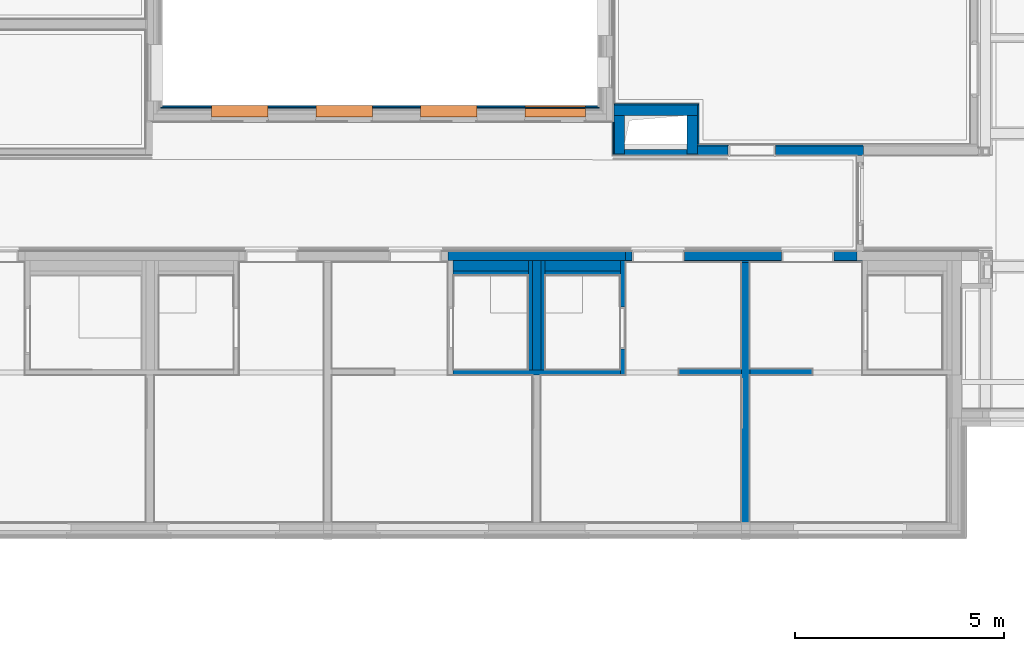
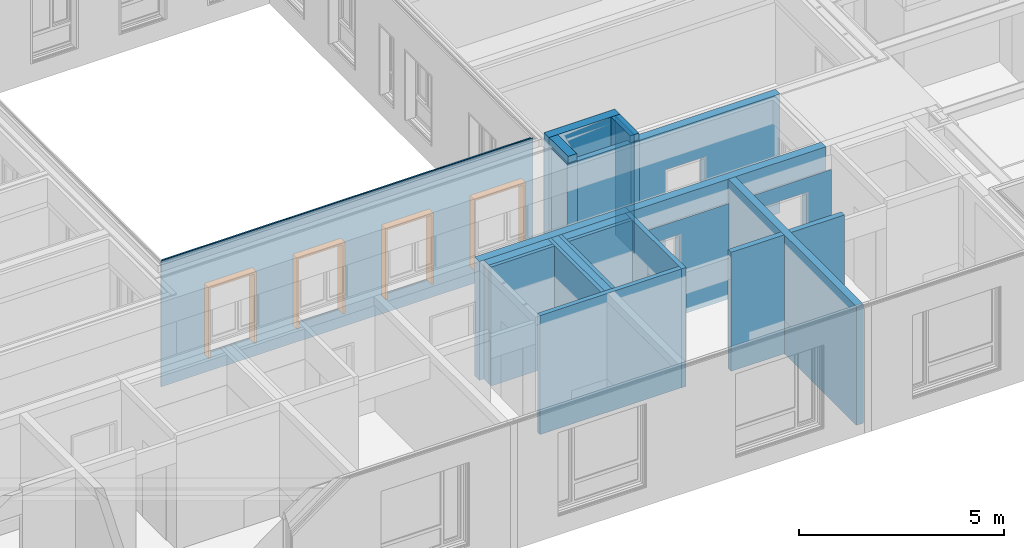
# One storey, part 13 of 222: 28 walls, 4 proxies, 15 openings.
"""IFC4 building model written with IfcOpenShell, lengths in metres."""

from ifc_helpers import new_model, entity, si_unit, converted_unit, derived_unit, frame, frame_2d, origin, origin_with_axes, place, context, subcontext, project, spatial, polyline, rectangle, outline, extrude, clip, bounded_halfspace, faceted_brep, material, element, fill, save


model = new_model("IFC4")

# Units and contexts
model_context = context("Model", 3, precision=1e-05, world=origin())
body_context = subcontext(model_context, "Body", "Model", "MODEL_VIEW")
ifc_project = project(units=[si_unit("LENGTHUNIT", "METRE"), si_unit("AREAUNIT", "SQUARE_METRE"), si_unit("VOLUMEUNIT", "CUBIC_METRE"), si_unit("MASSUNIT", "GRAM", prefix="KILO"), converted_unit("PLANEANGLEUNIT", "DEGREE", entity("IfcPlaneAngleMeasure", 0.0174532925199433), si_unit("PLANEANGLEUNIT", "RADIAN"), dimensions=[0, 0, 0, 0, 0, 0, 0]), derived_unit("THERMALTRANSMITTANCEUNIT", [(si_unit("POWERUNIT", "WATT"), 1), (si_unit("THERMODYNAMICTEMPERATUREUNIT", "KELVIN"), -1), (si_unit("LENGTHUNIT", "METRE"), -2)]), derived_unit("VOLUMETRICFLOWRATEUNIT", [(si_unit("LENGTHUNIT", "METRE"), 3), (converted_unit("TIMEUNIT", "hour", entity("IfcTimeMeasure", 3600.0), si_unit("TIMEUNIT", "SECOND"), dimensions=[0, 0, 1, 0, 0, 0, 0]), -1), (si_unit("LENGTHUNIT", "METRE"), -1)])], contexts=[model_context])

# Site, building, storey
site_placement = place(None, origin())
site = spatial("IfcSite", under=ifc_project, at=site_placement, Name="Psychiatrie Neubau Wunstorf", CompositionType="ELEMENT")
building_placement = place(site_placement, origin())
building = spatial("IfcBuilding", under=site, at=building_placement, Name="Neubau H2 Stationsgebäude", CompositionType="ELEMENT")
storey_placement = place(building_placement, frame((0.0, 0.0, 3.6)))
storey = spatial("IfcBuildingStorey", under=building, at=storey_placement, Name="H2 Ebene +1", CompositionType="ELEMENT", Elevation=3.6)

# Wall, openings
ifc_material_1 = material(Name="WA-TL")
wall_1_placement = place(storey_placement, frame((15.999, 7.75, 0.0)))
wall_1 = element("IfcWall", 1, at=wall_1_placement, inside=storey, material=ifc_material_1, context=body_context, shape_type="SweptSolid", body=[
    extrude(rectangle(XDim=10.502, YDim=0.024, at=frame_2d((5.25099999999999, 0.012), x_axis=(1.0, 0.0))), origin_with_axes(), (0.0, 0.0, 1.0), 3.75),
])
opening_1_placement = place(wall_1_placement, frame((10.1711686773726, 0.0239999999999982, 0.55), z_axis=(0.0, -1.0, 0.0), x_axis=(0.0, 0.0, 1.0)))
element("IfcOpeningElement", 2, at=opening_1_placement, cuts=wall_1, Name="Fensteröffnung", ObjectType="Opening", context=body_context, shape_type="SweptSolid", body=[
    extrude(outline(polyline([(2.115, 1.45), (2.115, 0.0), (0.0, 0.0), (0.0, 1.45), (2.115, 1.45)])), origin_with_axes(), (0.0, 0.0, 1.0), 0.024),
])
opening_2_placement = place(wall_1_placement, frame((7.57125366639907, 0.024, 0.55), z_axis=(0.0, -1.0, 0.0), x_axis=(0.0, 0.0, 1.0)))
element("IfcOpeningElement", 3, at=opening_2_placement, cuts=wall_1, Name="Fensteröffnung", ObjectType="Opening", context=body_context, shape_type="SweptSolid", body=[
    extrude(outline(polyline([(2.115, 1.35), (2.115, 0.0), (0.0, 0.0), (0.0, 1.35), (2.115, 1.35)])), origin_with_axes(), (0.0, 0.0, 1.0), 0.024),
])
opening_3_placement = place(wall_1_placement, frame((5.07125366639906, 0.0240000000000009, 0.55), z_axis=(0.0, -1.0, 0.0), x_axis=(0.0, 0.0, 1.0)))
element("IfcOpeningElement", 4, at=opening_3_placement, cuts=wall_1, Name="Fensteröffnung", ObjectType="Opening", context=body_context, shape_type="SweptSolid", body=[
    extrude(outline(polyline([(2.115, 1.35), (2.115, 0.0), (0.0, 0.0), (0.0, 1.35), (2.115, 1.35)])), origin_with_axes(), (0.0, 0.0, 1.0), 0.024),
])
opening_4_placement = place(wall_1_placement, frame((2.5712536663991, 0.0240000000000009, 0.55), z_axis=(0.0, -1.0, 0.0), x_axis=(0.0, 0.0, 1.0)))
element("IfcOpeningElement", 5, at=opening_4_placement, cuts=wall_1, Name="Fensteröffnung", ObjectType="Opening", context=body_context, shape_type="SweptSolid", body=[
    extrude(outline(polyline([(2.115, 1.35), (2.115, 0.0), (0.0, 0.0), (0.0, 1.35), (2.115, 1.35)])), origin_with_axes(), (0.0, 0.0, 1.0), 0.024),
])

# Wall, openings, proxies
ifc_material_2 = material(Name="WA-HS")
wall_2_placement = place(storey_placement, frame((16.041, 7.774, 0.0)))
wall_2 = element("IfcWall", 6, at=wall_2_placement, inside=storey, material=ifc_material_2, context=body_context, shape_type="SweptSolid", body=[
    extrude(rectangle(XDim=10.418, YDim=0.042, at=frame_2d((5.20899999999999, 0.021), x_axis=(1.0, 0.0))), origin_with_axes(), (0.0, 0.0, 1.0), 3.75),
])
opening_5_placement = place(wall_2_placement, frame((10.1291686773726, 0.0419999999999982, 0.55), z_axis=(0.0, -1.0, 0.0), x_axis=(0.0, 0.0, 1.0)))
opening_5 = element("IfcOpeningElement", 7, at=opening_5_placement, cuts=wall_2, Name="Fensteröffnung", ObjectType="Opening", context=body_context, shape_type="SweptSolid", body=[
    extrude(outline(polyline([(2.115, 1.45), (2.115, 0.0), (0.0, 0.0), (0.0, 1.45), (2.115, 1.45)])), origin_with_axes(), (0.0, 0.0, 1.0), 0.042),
])
opening_6_placement = place(wall_2_placement, frame((7.52925366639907, 0.042, 0.55), z_axis=(0.0, -1.0, 0.0), x_axis=(0.0, 0.0, 1.0)))
opening_6 = element("IfcOpeningElement", 8, at=opening_6_placement, cuts=wall_2, Name="Fensteröffnung", ObjectType="Opening", context=body_context, shape_type="SweptSolid", body=[
    extrude(outline(polyline([(2.115, 1.35), (2.115, 0.0), (0.0, 0.0), (0.0, 1.35), (2.115, 1.35)])), origin_with_axes(), (0.0, 0.0, 1.0), 0.042),
])
opening_7_placement = place(wall_2_placement, frame((5.02925366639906, 0.0420000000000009, 0.55), z_axis=(0.0, -1.0, 0.0), x_axis=(0.0, 0.0, 1.0)))
opening_7 = element("IfcOpeningElement", 9, at=opening_7_placement, cuts=wall_2, Name="Fensteröffnung", ObjectType="Opening", context=body_context, shape_type="SweptSolid", body=[
    extrude(outline(polyline([(2.115, 1.35), (2.115, 0.0), (0.0, 0.0), (0.0, 1.35), (2.115, 1.35)])), origin_with_axes(), (0.0, 0.0, 1.0), 0.042),
])
opening_8_placement = place(wall_2_placement, frame((2.5292536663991, 0.0420000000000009, 0.55), z_axis=(0.0, -1.0, 0.0), x_axis=(0.0, 0.0, 1.0)))
opening_8 = element("IfcOpeningElement", 10, at=opening_8_placement, cuts=wall_2, Name="Fensteröffnung", ObjectType="Opening", context=body_context, shape_type="SweptSolid", body=[
    extrude(outline(polyline([(2.115, 1.35), (2.115, 0.0), (0.0, 0.0), (0.0, 1.35), (2.115, 1.35)])), origin_with_axes(), (0.0, 0.0, 1.0), 0.042),
])
ifc_material_3 = material(Name="WA-HS")
proxy_1_placement = place(opening_5_placement, frame((0.0, 1.45, 0.275)))
proxy_1 = element("IfcBuildingElementProxy", 11, at=proxy_1_placement, inside=storey, material=ifc_material_3, context=body_context, shape_type="Brep", body=[
    faceted_brep([(0.0, -1.45, -0.275), (0.0, -1.45, 0.0), (2.115, -1.45, 0.0), (2.115, -1.45, -0.275), (0.0, -1.4, 0.0), (0.0, -1.4, -0.275), (2.065, -1.4, -0.275), (2.065, -1.4, 0.0), (2.115, 0.0, 0.0), (2.115, 0.0, -0.275), (0.0, 0.0, -0.275), (0.0, -0.0500000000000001, -0.275), (2.065, -0.05, -0.275), (2.065, -0.05, 0.0), (0.0, -0.0500000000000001, 0.0), (0.0, 0.0, 0.0)], [[[0, 1, 2, 3]], [[4, 5, 6, 7]], [[0, 5, 4, 1]], [[3, 2, 8, 9]], [[6, 5, 0, 3, 9, 10, 11, 12]], [[13, 14, 15, 8, 2, 1, 4, 7]], [[7, 6, 12, 13]], [[11, 14, 13, 12]], [[15, 10, 9, 8]], [[11, 10, 15, 14]]], orient=[[False], [False], [False], [False], [False], [False], [False], [False], [False], [False]]),
])
fill(opening_5, proxy_1)
ifc_material_4 = material(Name="WA-HS")
proxy_2_placement = place(opening_6_placement, frame((0.0, 1.35, 0.275)))
proxy_2 = element("IfcBuildingElementProxy", 12, at=proxy_2_placement, inside=storey, material=ifc_material_4, context=body_context, shape_type="Brep", body=[
    faceted_brep([(0.0, -1.35, -0.275), (0.0, -1.35, 0.0), (2.115, -1.35, 0.0), (2.115, -1.35, -0.275), (0.0, -1.3, 0.0), (0.0, -1.3, -0.275), (2.065, -1.3, -0.275), (2.065, -1.3, 0.0), (2.115, 0.0, 0.0), (2.115, 0.0, -0.275), (0.0, 0.0, -0.275), (0.0, -0.05, -0.275), (2.065, -0.05, -0.275), (2.065, -0.05, 0.0), (0.0, -0.05, 0.0), (0.0, 0.0, 0.0)], [[[0, 1, 2, 3]], [[4, 5, 6, 7]], [[0, 5, 4, 1]], [[3, 2, 8, 9]], [[6, 5, 0, 3, 9, 10, 11, 12]], [[13, 14, 15, 8, 2, 1, 4, 7]], [[7, 6, 12, 13]], [[11, 14, 13, 12]], [[15, 10, 9, 8]], [[11, 10, 15, 14]]], orient=[[False], [False], [False], [False], [False], [False], [False], [False], [False], [False]]),
])
fill(opening_6, proxy_2)
ifc_material_5 = material(Name="WA-HS")
proxy_3_placement = place(opening_7_placement, frame((0.0, 1.35, 0.275)))
proxy_3 = element("IfcBuildingElementProxy", 13, at=proxy_3_placement, inside=storey, material=ifc_material_5, context=body_context, shape_type="Brep", body=[
    faceted_brep([(0.0, -1.35, -0.275), (0.0, -1.35, 0.0), (2.115, -1.35, 0.0), (2.115, -1.35, -0.275), (0.0, -1.3, 0.0), (0.0, -1.3, -0.275), (2.065, -1.3, -0.275), (2.065, -1.3, 0.0), (2.115, 0.0, 0.0), (2.115, 0.0, -0.275), (0.0, 0.0, -0.275), (0.0, -0.05, -0.275), (2.065, -0.05, -0.275), (2.065, -0.05, 0.0), (0.0, -0.05, 0.0), (0.0, 0.0, 0.0)], [[[0, 1, 2, 3]], [[4, 5, 6, 7]], [[0, 5, 4, 1]], [[3, 2, 8, 9]], [[6, 5, 0, 3, 9, 10, 11, 12]], [[13, 14, 15, 8, 2, 1, 4, 7]], [[7, 6, 12, 13]], [[11, 14, 13, 12]], [[15, 10, 9, 8]], [[11, 10, 15, 14]]], orient=[[False], [False], [False], [False], [False], [False], [False], [False], [False], [False]]),
])
fill(opening_7, proxy_3)
ifc_material_6 = material(Name="WA-HS")
proxy_4_placement = place(opening_8_placement, frame((0.0, 1.35, 0.275)))
proxy_4 = element("IfcBuildingElementProxy", 14, at=proxy_4_placement, inside=storey, material=ifc_material_6, context=body_context, shape_type="Brep", body=[
    faceted_brep([(0.0, 0.0, 0.0), (0.0, 0.0, -0.275), (2.115, 0.0, -0.275), (2.115, 0.0, 0.0), (2.115, -1.35, -0.275), (2.115, -1.35, 0.0), (0.0, -0.05, -0.275), (0.0, -0.05, 0.0), (0.0, -1.35, 0.0), (0.0, -1.3, 0.0), (2.065, -1.3, 0.0), (2.065, -0.05, 0.0), (2.065, -0.05, -0.275), (2.065, -1.3, -0.275), (0.0, -1.3, -0.275), (0.0, -1.35, -0.275)], [[[0, 1, 2, 3]], [[2, 4, 5, 3]], [[6, 1, 0, 7]], [[7, 0, 3, 5, 8, 9, 10, 11]], [[1, 6, 12, 13, 14, 15, 4, 2]], [[6, 7, 11, 12]], [[15, 8, 5, 4]], [[15, 14, 9, 8]], [[9, 14, 13, 10]], [[10, 13, 12, 11]]], orient=[[False], [False], [False], [False], [False], [False], [False], [False], [False], [False]]),
])
fill(opening_8, proxy_4)

# Walls
ifc_material_7 = material(Name="WI-STB")
wall_3_placement = place(storey_placement, frame((27.1, 6.64199999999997, 0.0), z_axis=(0.0, 0.0, 1.0), x_axis=(0.0, 1.0, 0.0)))
element("IfcWall", 15, at=wall_3_placement, inside=storey, material=ifc_material_7, context=body_context, shape_type="Clipping", body=[
    clip(extrude(rectangle(XDim=0.932999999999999, YDim=0.25, at=frame_2d((0.4665, 0.125), x_axis=(1.0, 0.0))), origin_with_axes(), (0.0, 0.0, 1.0), 3.75), bounded_halfspace(frame((0.125005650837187, 0.125, 0.1), z_axis=(0.0, 0.0, 1.0), x_axis=(0.0, 1.0, 0.0)), True, origin_with_axes(), polyline([(0.250007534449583, 0.0), (0.250007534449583, 0.25), (3.76722479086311e-06, 0.25), (3.76722479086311e-06, 0.0), (0.250007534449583, 0.0)]))),
])
ifc_material_8 = material(Name="WI-LB")
wall_4_placement = place(storey_placement, frame((27.0, 1.48374963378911, 0.0), z_axis=(0.0, 0.0, 1.0), x_axis=(-1.0, 0.0, 0.0)))
element("IfcWall", 16, at=wall_4_placement, inside=storey, material=ifc_material_8, context=body_context, shape_type="SweptSolid", body=[
    extrude(rectangle(XDim=4.0, YDim=0.125, at=frame_2d((2.0, 0.0625), x_axis=(1.0, 0.0))), origin_with_axes(), (0.0, 0.0, 1.0), 3.55),
])

# Wall, opening
ifc_material_9 = material(Name="WI-LB")
wall_5_placement = place(storey_placement, frame((27.0, 4.09874963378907, 0.0), z_axis=(0.0, 0.0, 1.0), x_axis=(0.0, -1.0, 0.0)))
wall_5 = element("IfcWall", 17, at=wall_5_placement, inside=storey, material=ifc_material_9, context=body_context, shape_type="SweptSolid", body=[
    extrude(rectangle(XDim=2.73999999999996, YDim=0.125, at=frame_2d((1.36999999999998, 0.0625), x_axis=(1.0, 0.0))), origin_with_axes(), (0.0, 0.0, 1.0), 3.55),
])
opening_9_placement = place(wall_5_placement, frame((1.10499999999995, 0.0, 0.0), z_axis=(0.0, 1.0, 0.0), x_axis=(0.0, 0.0, 1.0)))
element("IfcOpeningElement", 18, at=opening_9_placement, cuts=wall_5, Name="Türöffnung", ObjectType="Opening", context=body_context, shape_type="SweptSolid", body=[
    extrude(outline(polyline([(2.41, 1.01), (2.41, 0.0), (0.0, 0.0), (0.0, 1.01), (2.41, 1.01)])), origin_with_axes(), (0.0, 0.0, 1.0), 0.125),
])

# Walls
ifc_material_10 = material(Name="WI-LB")
wall_6_placement = place(storey_placement, frame((26.8200003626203, 7.414, 0.0), z_axis=(0.0, 0.0, 1.0), x_axis=(0.0, -1.0, 0.0)))
element("IfcWall", 19, at=wall_6_placement, inside=storey, material=ifc_material_10, context=body_context, shape_type="SweptSolid", body=[
    extrude(rectangle(XDim=0.772000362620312, YDim=0.0299996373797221, at=frame_2d((0.386000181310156, 0.0149998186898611), x_axis=(1.0, 0.0))), origin_with_axes(), (0.0, 0.0, 1.0), 3.55),
])
ifc_material_11 = material(Name="WI-LB")
wall_7_placement = place(storey_placement, frame((28.88, 7.85499999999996, 0.0), z_axis=(0.0, 0.0, 1.0), x_axis=(-1.0, 0.0, 0.0)))
element("IfcWall", 20, at=wall_7_placement, inside=storey, material=ifc_material_11, context=body_context, shape_type="SweptSolid", body=[
    extrude(rectangle(XDim=2.01900000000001, YDim=0.0299996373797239, at=frame_2d((1.00950000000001, 0.014999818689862), x_axis=(1.0, 0.0))), origin_with_axes(), (0.0, 0.0, 1.0), 3.55),
])
ifc_material_12 = material(Name="WI-LB")
wall_8_placement = place(storey_placement, frame((28.88, 6.88399999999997, 0.0), z_axis=(0.0, 0.0, 1.0), x_axis=(0.0, 1.0, 0.0)))
element("IfcWall", 21, at=wall_8_placement, inside=storey, material=ifc_material_12, context=body_context, shape_type="SweptSolid", body=[
    extrude(rectangle(XDim=0.940999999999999, YDim=0.0299996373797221, at=frame_2d((0.4705, 0.0149998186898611), x_axis=(1.0, 0.0))), origin_with_axes(), (0.0, 0.0, 1.0), 3.55),
])
ifc_material_13 = material(Name="WI-STB")
wall_9_placement = place(storey_placement, frame((28.85, 6.64199999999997, 0.0), z_axis=(0.0, 0.0, 1.0), x_axis=(0.0, 1.0, 0.0)))
element("IfcWall", 22, at=wall_9_placement, inside=storey, material=ifc_material_13, context=body_context, shape_type="Clipping", body=[
    clip(extrude(rectangle(XDim=0.932999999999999, YDim=0.25, at=frame_2d((0.4665, 0.125), x_axis=(1.0, 0.0))), origin_with_axes(), (0.0, 0.0, 1.0), 3.75), bounded_halfspace(frame((0.125005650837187, 0.125, 0.1), z_axis=(0.0, 0.0, 1.0), x_axis=(0.0, 1.0, 0.0)), True, origin_with_axes(), polyline([(0.250007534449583, 0.0), (0.250007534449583, 0.25), (3.76722479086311e-06, 0.25), (3.76722479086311e-06, 0.0), (0.250007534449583, 0.0)]))),
])
ifc_material_14 = material(Name="WI-STB")
wall_10_placement = place(storey_placement, frame((28.85, 7.82499999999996, 0.0), z_axis=(0.0, 0.0, 1.0), x_axis=(-1.0, 0.0, 0.0)))
element("IfcWall", 23, at=wall_10_placement, inside=storey, material=ifc_material_14, context=body_context, shape_type="SweptSolid", body=[
    extrude(rectangle(XDim=2.0, YDim=0.25, at=frame_2d((1.0, 0.125), x_axis=(1.0, 0.0))), origin_with_axes(), (0.0, 0.0, 1.0), 3.75),
])
ifc_material_15 = material(Name="WI-LB")
wall_11_placement = place(storey_placement, frame((29.9, 4.09874963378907, 0.0), z_axis=(0.0, 0.0, 1.0), x_axis=(0.0, -1.0, 0.0)))
element("IfcWall", 24, at=wall_11_placement, inside=storey, material=ifc_material_15, context=body_context, shape_type="SweptSolid", body=[
    extrude(rectangle(XDim=6.26274963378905, YDim=0.2, at=frame_2d((3.13137481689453, 0.1), x_axis=(1.0, 0.0))), origin_with_axes(), (0.0, 0.0, 1.0), 3.55),
])

# Wall, opening
ifc_material_16 = material(Name="WI-HW 60")
wall_12_placement = place(storey_placement, frame((28.85, 6.61199999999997, 0.0), z_axis=(0.0, 0.0, 1.0), x_axis=(1.0, -2.2917845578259e-16, 0.0)))
wall_12 = element("IfcWall", 25, at=wall_12_placement, inside=storey, material=ifc_material_16, context=body_context, shape_type="SweptSolid", body=[
    extrude(rectangle(XDim=3.96849999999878, YDim=0.232, at=frame_2d((1.98424999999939, 0.116), x_axis=(1.0, 0.0))), origin_with_axes(), (0.0, 0.0, 1.0), 3.55),
])
opening_10_placement = place(wall_12_placement, frame((1.865, 0.232, 0.0), z_axis=(0.0, -1.0, 0.0), x_axis=(0.0, 0.0, 1.0)))
element("IfcOpeningElement", 26, at=opening_10_placement, cuts=wall_12, Name="Türöffnung", ObjectType="Opening", context=body_context, shape_type="SweptSolid", body=[
    extrude(outline(polyline([(2.41, 1.135), (2.41, 0.0), (0.0, 0.0), (0.0, 1.135), (2.41, 1.135)])), origin_with_axes(), (0.0, 0.0, 1.0), 0.232),
])

ifc_material_17 = material(Name="WI-LB")
wall_13_placement = place(storey_placement, frame((28.85, 6.84399999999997, 0.0), z_axis=(0.0, 0.0, 1.0), x_axis=(1.0, -2.2917845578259e-16, 0.0)))
wall_13 = element("IfcWall", 27, at=wall_13_placement, inside=storey, material=ifc_material_17, context=body_context, shape_type="SweptSolid", body=[
    extrude(rectangle(XDim=3.96849999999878, YDim=0.04, at=frame_2d((1.98424999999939, 0.02), x_axis=(1.0, 0.0))), origin_with_axes(), (0.0, 0.0, 1.0), 2.9),
])
opening_11_placement = place(wall_13_placement, frame((1.865, 0.0400000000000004, 0.0), z_axis=(0.0, -1.0, 0.0), x_axis=(0.0, 0.0, 1.0)))
element("IfcOpeningElement", 28, at=opening_11_placement, cuts=wall_13, Name="Türöffnung", ObjectType="Opening", context=body_context, shape_type="SweptSolid", body=[
    extrude(outline(polyline([(2.41, 1.135), (2.41, 0.0), (0.0, 0.0), (0.0, 1.135), (2.41, 1.135)])), origin_with_axes(), (0.0, 0.0, 1.0), 0.04),
])

# Walls
ifc_material_18 = material(Name="WI-LB")
wall_14_placement = place(storey_placement, frame((29.9, 1.50874963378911, 0.0), z_axis=(0.0, 0.0, 1.0), x_axis=(-1.0, 0.0, 0.0)))
element("IfcWall", 29, at=wall_14_placement, inside=storey, material=ifc_material_18, context=body_context, shape_type="SweptSolid", body=[
    extrude(rectangle(XDim=1.5, YDim=0.15, at=frame_2d((0.75, 0.075), x_axis=(1.0, 0.0))), origin_with_axes(), (0.0, 0.0, 1.0), 3.55),
])
ifc_material_19 = material(Name="WI-LB")
wall_15_placement = place(storey_placement, frame((31.6, 1.50874963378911, 0.0), z_axis=(0.0, 0.0, 1.0), x_axis=(-1.0, -4.24430860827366e-15, 0.0)))
element("IfcWall", 30, at=wall_15_placement, inside=storey, material=ifc_material_19, context=body_context, shape_type="SweptSolid", body=[
    extrude(rectangle(XDim=1.5, YDim=0.15, at=frame_2d((0.75, 0.075), x_axis=(1.0, 0.0))), origin_with_axes(), (0.0, 0.0, 1.0), 3.55),
])
ifc_material_20 = material(Name="WI-LB")
wall_16_placement = place(storey_placement, frame((28.6, 6.61199999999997, 0.0)))
element("IfcWall", 31, at=wall_16_placement, inside=storey, material=ifc_material_20, context=body_context, shape_type="SweptSolid", body=[
    extrude(rectangle(XDim=0.25, YDim=0.0299996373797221, at=frame_2d((0.125, 0.0149998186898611), x_axis=(1.0, 0.0))), origin_with_axes(), (0.0, 0.0, 1.0), 3.55),
])

# Wall, openings
ifc_material_21 = material(Name="WI-HW 60")
wall_17_placement = place(storey_placement, frame((32.6634999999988, 4.33074963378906, 0.0), z_axis=(0.0, 0.0, 1.0), x_axis=(-1.0, 1.14949226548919e-15, 0.0)))
wall_17 = element("IfcWall", 32, at=wall_17_placement, inside=storey, material=ifc_material_21, context=body_context, shape_type="SweptSolid", body=[
    extrude(rectangle(XDim=5.53849999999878, YDim=0.232, at=frame_2d((2.76924999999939, 0.116), x_axis=(1.0, 0.0))), origin_with_axes(), (0.0, 0.0, 1.0), 3.55),
])
opening_12_placement = place(wall_17_placement, frame((4.12849999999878, 0.0, 0.0), z_axis=(0.0, 1.0, 0.0), x_axis=(0.0, 0.0, 1.0)))
element("IfcOpeningElement", 33, at=opening_12_placement, cuts=wall_17, Name="Türöffnung", ObjectType="Opening", context=body_context, shape_type="SweptSolid", body=[
    extrude(outline(polyline([(2.41, 1.26), (2.41, 0.0), (0.0, 0.0), (0.0, 1.26), (2.41, 1.26)])), origin_with_axes(), (0.0, 0.0, 1.0), 0.232),
])
opening_13_placement = place(wall_17_placement, frame((0.548499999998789, 0.0, 0.0), z_axis=(-9.80058945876e-16, 1.0, 0.0), x_axis=(0.0, 0.0, 1.0)))
element("IfcOpeningElement", 34, at=opening_13_placement, cuts=wall_17, Name="Türöffnung", ObjectType="Opening", context=body_context, shape_type="SweptSolid", body=[
    extrude(outline(polyline([(2.41, 1.26), (2.41, 0.0), (0.0, 0.0), (0.0, 1.26), (2.41, 1.26)])), origin_with_axes(), (0.0, 0.0, 1.0), 0.232),
])

ifc_material_22 = material(Name="WI-LB")
wall_18_placement = place(storey_placement, frame((32.7925, 4.09874963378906, 0.0), z_axis=(0.0, 0.0, 1.0), x_axis=(-1.0, 1.12332825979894e-15, 0.0)))
wall_18 = element("IfcWall", 35, at=wall_18_placement, inside=storey, material=ifc_material_22, context=body_context, shape_type="SweptSolid", body=[
    extrude(rectangle(XDim=5.6675, YDim=0.0399999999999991, at=frame_2d((2.83375, 0.0199999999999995), x_axis=(1.0, 0.0))), origin_with_axes(), (0.0, 0.0, 1.0), 2.85),
])
opening_14_placement = place(wall_18_placement, frame((4.2575, 0.0, 0.0), z_axis=(0.0, 1.0, 0.0), x_axis=(0.0, 0.0, 1.0)))
element("IfcOpeningElement", 36, at=opening_14_placement, cuts=wall_18, Name="Türöffnung", ObjectType="Opening", context=body_context, shape_type="SweptSolid", body=[
    extrude(outline(polyline([(2.41, 1.26), (2.41, 0.0), (0.0, 0.0), (0.0, 1.26), (2.41, 1.26)])), origin_with_axes(), (0.0, 0.0, 1.0), 0.0399999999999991),
])
opening_15_placement = place(wall_18_placement, frame((0.677500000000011, 0.0, 0.0), z_axis=(0.0, 1.0, 0.0), x_axis=(0.0, 0.0, 1.0)))
element("IfcOpeningElement", 37, at=opening_15_placement, cuts=wall_18, Name="Türöffnung", ObjectType="Opening", context=body_context, shape_type="SweptSolid", body=[
    extrude(outline(polyline([(2.41, 1.26), (2.41, 0.0), (0.0, 0.0), (0.0, 1.26), (2.41, 1.26)])), origin_with_axes(), (0.0, 0.0, 1.0), 0.0399999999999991),
])

# Walls
ifc_material_23 = material(Name="WI-HW 60")
wall_19_placement = place(storey_placement, frame((27.125, 4.33074963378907, 0.0), z_axis=(0.0, 0.0, 1.0), x_axis=(-1.0, 1.06999376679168e-15, 0.0)))
element("IfcWall", 38, at=wall_19_placement, inside=storey, material=ifc_material_23, context=body_context, shape_type="SweptSolid", body=[
    extrude(rectangle(XDim=4.25, YDim=0.232, at=frame_2d((2.125, 0.116), x_axis=(1.0, 0.0))), origin_with_axes(), (0.0, 0.0, 1.0), 3.55),
])
ifc_material_24 = material(Name="WI-LB")
wall_20_placement = place(storey_placement, frame((26.8200003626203, 6.61199999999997, 0.0)))
element("IfcWall", 39, at=wall_20_placement, inside=storey, material=ifc_material_24, context=body_context, shape_type="SweptSolid", body=[
    extrude(rectangle(XDim=0.279999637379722, YDim=0.0299996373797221, at=frame_2d((0.139999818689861, 0.0149998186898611), x_axis=(1.0, 0.0))), origin_with_axes(), (0.0, 0.0, 1.0), 3.55),
])
ifc_material_25 = material(Name="WI-IW")
wall_21_placement = place(storey_placement, frame((23.0, 3.74874963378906, 0.0)))
element("IfcWall", 40, at=wall_21_placement, inside=storey, material=ifc_material_25, context=body_context, shape_type="SweptSolid", body=[
    extrude(rectangle(XDim=1.8, YDim=0.1, at=frame_2d((0.9, 0.05), x_axis=(1.0, 0.0))), origin_with_axes(), (0.0, 0.0, 1.0), 3.55),
])
ifc_material_26 = material(Name="Installationsraum")
wall_22_placement = place(storey_placement, frame((23.0, 3.84874963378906, 0.0)))
element("IfcWall", 41, at=wall_22_placement, inside=storey, material=ifc_material_26, context=body_context, shape_type="SweptSolid", body=[
    extrude(rectangle(XDim=1.8, YDim=0.25, at=frame_2d((0.899999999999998, 0.125), x_axis=(1.0, 0.0))), origin_with_axes(), (0.0, 0.0, 1.0), 3.55),
])
ifc_material_27 = material(Name="WI-IW")
wall_23_placement = place(storey_placement, frame((24.8, 4.09874963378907, 0.0), z_axis=(0.0, 0.0, 1.0), x_axis=(0.0, -1.0, 0.0)))
element("IfcWall", 42, at=wall_23_placement, inside=storey, material=ifc_material_27, context=body_context, shape_type="SweptSolid", body=[
    extrude(rectangle(XDim=2.61499999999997, YDim=0.1, at=frame_2d((1.30749999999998, 0.05), x_axis=(1.0, 0.0))), origin_with_axes(), (0.0, 0.0, 1.0), 3.55),
])
ifc_material_28 = material(Name="Installationsraum")
wall_24_placement = place(storey_placement, frame((24.9, 4.09874963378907, 0.0), z_axis=(0.0, 0.0, 1.0), x_axis=(0.0, -1.0, 0.0)))
element("IfcWall", 43, at=wall_24_placement, inside=storey, material=ifc_material_28, context=body_context, shape_type="SweptSolid", body=[
    extrude(rectangle(XDim=2.61499999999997, YDim=0.2, at=frame_2d((1.30749999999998, 0.1), x_axis=(1.0, 0.0))), origin_with_axes(), (0.0, 0.0, 1.0), 3.55),
])
ifc_material_29 = material(Name="WI-IW")
wall_25_placement = place(storey_placement, frame((25.1, 4.09874963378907, 0.0), z_axis=(0.0, 0.0, 1.0), x_axis=(0.0, -1.0, 0.0)))
element("IfcWall", 44, at=wall_25_placement, inside=storey, material=ifc_material_29, context=body_context, shape_type="SweptSolid", body=[
    extrude(rectangle(XDim=2.61499999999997, YDim=0.1, at=frame_2d((1.30749999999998, 0.05), x_axis=(1.0, 0.0))), origin_with_axes(), (0.0, 0.0, 1.0), 3.55),
])
ifc_material_30 = material(Name="WI-IW")
wall_26_placement = place(storey_placement, frame((25.2, 3.74874963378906, 0.0)))
element("IfcWall", 45, at=wall_26_placement, inside=storey, material=ifc_material_30, context=body_context, shape_type="SweptSolid", body=[
    extrude(rectangle(XDim=1.8, YDim=0.1, at=frame_2d((0.9, 0.05), x_axis=(1.0, 0.0))), origin_with_axes(), (0.0, 0.0, 1.0), 3.55),
])
ifc_material_31 = material(Name="Installationsraum")
wall_27_placement = place(storey_placement, frame((25.2, 3.84874963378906, 0.0)))
element("IfcWall", 46, at=wall_27_placement, inside=storey, material=ifc_material_31, context=body_context, shape_type="SweptSolid", body=[
    extrude(rectangle(XDim=1.8, YDim=0.25, at=frame_2d((0.9, 0.125), x_axis=(1.0, 0.0))), origin_with_axes(), (0.0, 0.0, 1.0), 3.55),
])
ifc_material_32 = material(Name="WI-LB")
wall_28_placement = place(storey_placement, frame((28.6, 6.76199999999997, 0.0), z_axis=(0.0, 0.0, 1.0), x_axis=(-1.0, 0.0, 0.0)))
element("IfcWall", 47, at=wall_28_placement, inside=storey, material=ifc_material_32, context=body_context, shape_type="Clipping", body=[
    clip(extrude(rectangle(XDim=1.5, YDim=0.15, at=frame_2d((0.75, 0.075), x_axis=(1.0, 0.0))), origin_with_axes(), (0.0, 0.0, 1.0), 3.55), bounded_halfspace(frame((0.75, 0.05999623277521, 0.1), z_axis=(0.0, 0.0, 1.0), x_axis=(1.0, 0.0, 0.0)), True, origin_with_axes(), polyline([(0.0, 0.0), (1.5, 0.0), (1.5, 0.119992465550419), (0.0, 0.119992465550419), (0.0, 0.0)]))),
])

save(model, "model.ifc")
